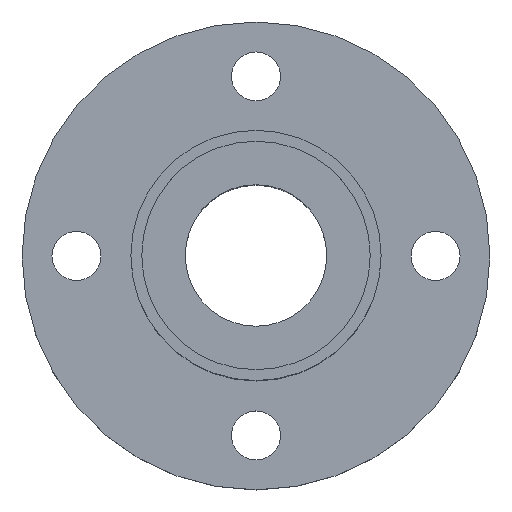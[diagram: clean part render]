
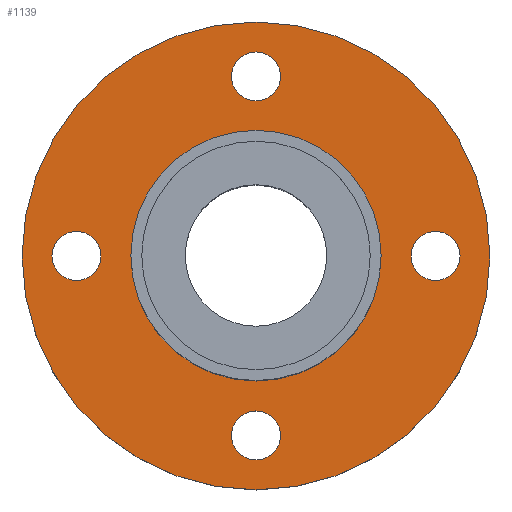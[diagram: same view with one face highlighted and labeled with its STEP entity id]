
A CAD part, top view. The second image highlights one B-rep face of the part: STEP entity #1139.
In plain terms, the highlighted planar face has unit normal (0, 0, 1).
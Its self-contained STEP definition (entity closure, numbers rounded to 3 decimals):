
#51=CARTESIAN_POINT('',(-21.5,-0.1,6.));
#52=VERTEX_POINT('',#51);
#68=CARTESIAN_POINT('',(21.5,-0.1,6.));
#69=VERTEX_POINT('',#68);
#76=CARTESIAN_POINT('',(0.0,-0.1,6.));
#77=DIRECTION('',(0.0,0.0,-1.0));
#78=DIRECTION('',(-1.0,0.0,0.0));
#79=AXIS2_PLACEMENT_3D('',#76,#77,#78);
#80=CIRCLE('',#79,21.5);
#81=EDGE_CURVE('',#69,#52,#80,.T.);
#133=CARTESIAN_POINT('',(-11.5,-0.1,6.0));
#134=VERTEX_POINT('',#133);
#143=CARTESIAN_POINT('',(11.5,-0.1,6.));
#144=VERTEX_POINT('',#143);
#145=CARTESIAN_POINT('',(0.0,-0.1,6.));
#146=DIRECTION('',(0.0,0.0,-1.0));
#147=DIRECTION('',(-1.0,0.0,0.0));
#148=AXIS2_PLACEMENT_3D('',#145,#146,#147);
#149=CIRCLE('',#148,11.5);
#150=EDGE_CURVE('',#144,#134,#149,.T.);
#345=CARTESIAN_POINT('',(0.0,14.15,6.));
#346=VERTEX_POINT('',#345);
#362=CARTESIAN_POINT('',(0.,18.65,6.));
#363=VERTEX_POINT('',#362);
#370=CARTESIAN_POINT('',(0.0,16.4,6.));
#371=DIRECTION('',(0.0,0.0,-1.0));
#372=DIRECTION('',(0.0,-1.0,0.0));
#373=AXIS2_PLACEMENT_3D('',#370,#371,#372);
#374=CIRCLE('',#373,2.25);
#375=EDGE_CURVE('',#346,#363,#374,.T.);
#429=CARTESIAN_POINT('',(-14.25,-0.1,6.));
#430=VERTEX_POINT('',#429);
#446=CARTESIAN_POINT('',(-18.75,-0.1,6.));
#447=VERTEX_POINT('',#446);
#454=CARTESIAN_POINT('',(-16.5,-0.1,6.));
#455=DIRECTION('',(0.0,0.0,-1.0));
#456=DIRECTION('',(1.0,0.0,0.0));
#457=AXIS2_PLACEMENT_3D('',#454,#455,#456);
#458=CIRCLE('',#457,2.25);
#459=EDGE_CURVE('',#430,#447,#458,.T.);
#513=CARTESIAN_POINT('',(0.,-14.35,6.));
#514=VERTEX_POINT('',#513);
#530=CARTESIAN_POINT('',(0.,-18.85,6.));
#531=VERTEX_POINT('',#530);
#538=CARTESIAN_POINT('',(0.,-16.6,6.));
#539=DIRECTION('',(0.0,0.0,-1.0));
#540=DIRECTION('',(0.0,1.0,0.0));
#541=AXIS2_PLACEMENT_3D('',#538,#539,#540);
#542=CIRCLE('',#541,2.25);
#543=EDGE_CURVE('',#514,#531,#542,.T.);
#597=CARTESIAN_POINT('',(14.25,-0.1,6.));
#598=VERTEX_POINT('',#597);
#614=CARTESIAN_POINT('',(18.75,-0.1,6.));
#615=VERTEX_POINT('',#614);
#622=CARTESIAN_POINT('',(16.5,-0.1,6.));
#623=DIRECTION('',(0.0,0.0,-1.0));
#624=DIRECTION('',(-1.0,0.0,0.0));
#625=AXIS2_PLACEMENT_3D('',#622,#623,#624);
#626=CIRCLE('',#625,2.25);
#627=EDGE_CURVE('',#598,#615,#626,.T.);
#638=CARTESIAN_POINT('',(16.5,-0.1,6.));
#639=DIRECTION('',(0.0,0.0,-1.0));
#640=DIRECTION('',(-1.0,0.0,0.0));
#641=AXIS2_PLACEMENT_3D('',#638,#639,#640);
#642=CIRCLE('',#641,2.25);
#643=EDGE_CURVE('',#615,#598,#642,.T.);
#700=CARTESIAN_POINT('',(0.,-16.6,6.));
#701=DIRECTION('',(0.0,0.0,-1.0));
#702=DIRECTION('',(0.0,1.0,0.0));
#703=AXIS2_PLACEMENT_3D('',#700,#701,#702);
#704=CIRCLE('',#703,2.25);
#705=EDGE_CURVE('',#531,#514,#704,.T.);
#762=CARTESIAN_POINT('',(-16.5,-0.1,6.));
#763=DIRECTION('',(0.0,0.0,-1.0));
#764=DIRECTION('',(1.0,0.0,0.0));
#765=AXIS2_PLACEMENT_3D('',#762,#763,#764);
#766=CIRCLE('',#765,2.25);
#767=EDGE_CURVE('',#447,#430,#766,.T.);
#824=CARTESIAN_POINT('',(0.0,16.4,6.));
#825=DIRECTION('',(0.0,0.0,-1.0));
#826=DIRECTION('',(0.0,-1.0,0.0));
#827=AXIS2_PLACEMENT_3D('',#824,#825,#826);
#828=CIRCLE('',#827,2.25);
#829=EDGE_CURVE('',#363,#346,#828,.T.);
#1056=CARTESIAN_POINT('',(0.0,-0.1,6.));
#1057=DIRECTION('',(0.0,0.0,-1.0));
#1058=DIRECTION('',(-1.0,0.0,0.0));
#1059=AXIS2_PLACEMENT_3D('',#1056,#1057,#1058);
#1060=CIRCLE('',#1059,11.5);
#1061=EDGE_CURVE('',#134,#144,#1060,.T.);
#1098=CARTESIAN_POINT('',(0.0,-0.1,6.));
#1099=DIRECTION('',(0.0,0.0,-1.0));
#1100=DIRECTION('',(-1.0,0.0,0.0));
#1101=AXIS2_PLACEMENT_3D('',#1098,#1099,#1100);
#1102=CIRCLE('',#1101,21.5);
#1103=EDGE_CURVE('',#52,#69,#1102,.T.);
#1110=CARTESIAN_POINT('',(0.0,-0.1,6.));
#1111=DIRECTION('',(0.0,0.0,-1.0));
#1112=DIRECTION('',(-1.0,0.0,0.0));
#1113=AXIS2_PLACEMENT_3D('',#1110,#1111,#1112);
#1114=PLANE('',#1113);
#1115=ORIENTED_EDGE('',*,*,#81,.F.);
#1116=ORIENTED_EDGE('',*,*,#1103,.F.);
#1117=EDGE_LOOP('',(#1115,#1116));
#1118=FACE_OUTER_BOUND('',#1117,.T.);
#1119=ORIENTED_EDGE('',*,*,#627,.T.);
#1120=ORIENTED_EDGE('',*,*,#643,.T.);
#1121=EDGE_LOOP('',(#1119,#1120));
#1122=FACE_BOUND('',#1121,.T.);
#1123=ORIENTED_EDGE('',*,*,#543,.T.);
#1124=ORIENTED_EDGE('',*,*,#705,.T.);
#1125=EDGE_LOOP('',(#1123,#1124));
#1126=FACE_BOUND('',#1125,.T.);
#1127=ORIENTED_EDGE('',*,*,#459,.T.);
#1128=ORIENTED_EDGE('',*,*,#767,.T.);
#1129=EDGE_LOOP('',(#1127,#1128));
#1130=FACE_BOUND('',#1129,.T.);
#1131=ORIENTED_EDGE('',*,*,#375,.T.);
#1132=ORIENTED_EDGE('',*,*,#829,.T.);
#1133=EDGE_LOOP('',(#1131,#1132));
#1134=FACE_BOUND('',#1133,.T.);
#1135=ORIENTED_EDGE('',*,*,#150,.T.);
#1136=ORIENTED_EDGE('',*,*,#1061,.T.);
#1137=EDGE_LOOP('',(#1135,#1136));
#1138=FACE_BOUND('',#1137,.T.);
#1139=ADVANCED_FACE('',(#1118,#1122,#1126,#1130,#1134,#1138),#1114,.F.);
